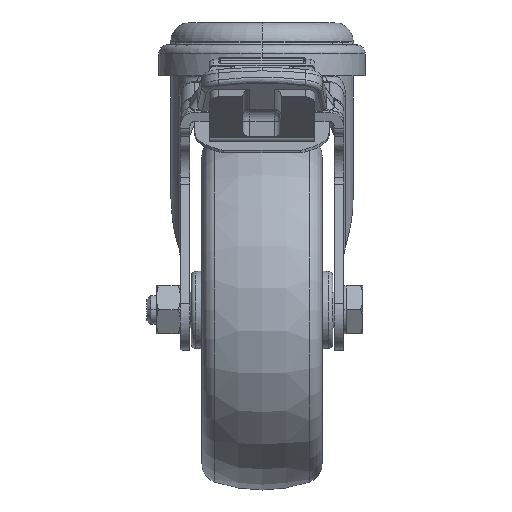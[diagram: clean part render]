
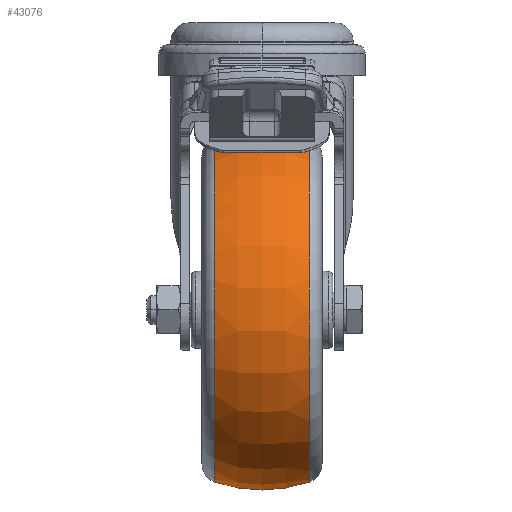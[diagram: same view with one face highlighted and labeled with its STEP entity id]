
A CAD part, top view. The second image highlights one B-rep face of the part: STEP entity #43076.
In plain terms, the highlighted toroidal (fillet/blend) face has major radius 7.5 mm and minor radius 30 mm.
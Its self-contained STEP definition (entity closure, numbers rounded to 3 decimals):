
#6575 = EDGE_LOOP ( 'NONE', ( #63305, #50686, #33075, #79801 ) ) ;
#8013 = CARTESIAN_POINT ( 'NONE',  ( 0., -52.5, 28. ) ) ;
#14528 = CARTESIAN_POINT ( 'NONE',  ( 0., -60., 28. ) ) ;
#17228 = CIRCLE ( 'NONE', #85317, 30. ) ;
#19651 = AXIS2_PLACEMENT_3D ( 'NONE', #8013, #36404, #83956 ) ;
#20816 = AXIS2_PLACEMENT_3D ( 'NONE', #14528, #33662, #48239 ) ;
#21475 = AXIS2_PLACEMENT_3D ( 'NONE', #64604, #78344, #30838 ) ;
#21640 = DIRECTION ( 'NONE',  ( 0., 1., 0. ) ) ;
#28718 = DIRECTION ( 'NONE',  ( 0., 0., -1. ) ) ;
#30838 = DIRECTION ( 'NONE',  ( 0., -1., 0. ) ) ;
#31078 = VERTEX_POINT ( 'NONE', #39553 ) ;
#33075 = ORIENTED_EDGE ( 'NONE', *, *, #67826, .F. ) ;
#33662 = DIRECTION ( 'NONE',  ( -1., 0., 0. ) ) ;
#34959 = TOROIDAL_SURFACE ( 'NONE', #20816, 7.5, 30. ) ;
#36404 = DIRECTION ( 'NONE',  ( 0., 0., 1. ) ) ;
#39553 = CARTESIAN_POINT ( 'NONE',  ( -9.808, -95.852, 28. ) ) ;
#43076 = ADVANCED_FACE ( 'NONE', ( #66538 ), #34959, .T. ) ;
#43373 = CARTESIAN_POINT ( 'NONE',  ( 9.808, -95.852, 28. ) ) ;
#45324 = CARTESIAN_POINT ( 'NONE',  ( -9.808, -24.148, 28. ) ) ;
#45830 = EDGE_CURVE ( 'NONE', #63790, #52425, #57854, .T. ) ;
#48239 = DIRECTION ( 'NONE',  ( 0., -1., 0. ) ) ;
#50532 = CARTESIAN_POINT ( 'NONE',  ( 9.808, -60., 28. ) ) ;
#50686 = ORIENTED_EDGE ( 'NONE', *, *, #45830, .T. ) ;
#51393 = DIRECTION ( 'NONE',  ( 0., -1., 0. ) ) ;
#52425 = VERTEX_POINT ( 'NONE', #45324 ) ;
#55408 = CIRCLE ( 'NONE', #21475, 35.852 ) ;
#57854 = CIRCLE ( 'NONE', #19651, 30. ) ;
#60002 = VERTEX_POINT ( 'NONE', #43373 ) ;
#62195 = EDGE_CURVE ( 'NONE', #60002, #63790, #63370, .T. ) ;
#63012 = DIRECTION ( 'NONE',  ( -1., 0., 0. ) ) ;
#63305 = ORIENTED_EDGE ( 'NONE', *, *, #62195, .T. ) ;
#63370 = CIRCLE ( 'NONE', #74710, 35.852 ) ;
#63790 = VERTEX_POINT ( 'NONE', #73220 ) ;
#64604 = CARTESIAN_POINT ( 'NONE',  ( -9.808, -60., 28. ) ) ;
#66538 = FACE_OUTER_BOUND ( 'NONE', #6575, .T. ) ;
#67826 = EDGE_CURVE ( 'NONE', #31078, #52425, #55408, .T. ) ;
#73220 = CARTESIAN_POINT ( 'NONE',  ( 9.808, -24.148, 28. ) ) ;
#74710 = AXIS2_PLACEMENT_3D ( 'NONE', #50532, #63012, #51393 ) ;
#78344 = DIRECTION ( 'NONE',  ( -1., 0., 0. ) ) ;
#79801 = ORIENTED_EDGE ( 'NONE', *, *, #82809, .F. ) ;
#81993 = CARTESIAN_POINT ( 'NONE',  ( 0., -67.5, 28. ) ) ;
#82809 = EDGE_CURVE ( 'NONE', #60002, #31078, #17228, .T. ) ;
#83956 = DIRECTION ( 'NONE',  ( 0., -1., 0. ) ) ;
#85317 = AXIS2_PLACEMENT_3D ( 'NONE', #81993, #28718, #21640 ) ;
